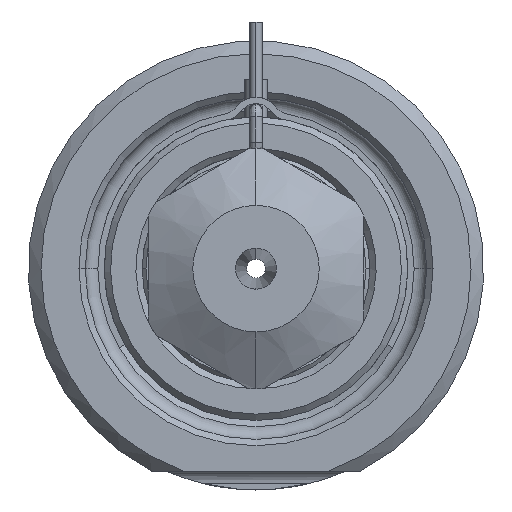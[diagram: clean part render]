
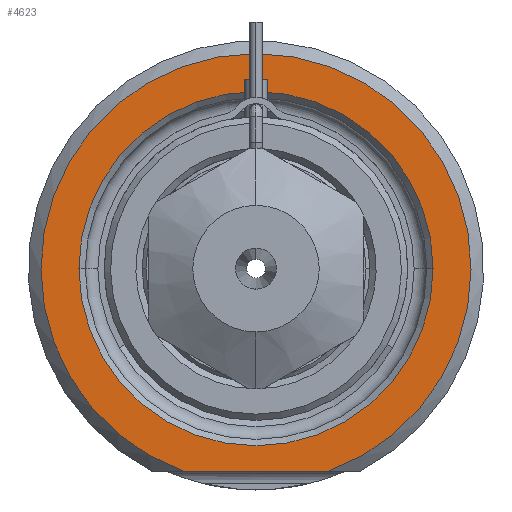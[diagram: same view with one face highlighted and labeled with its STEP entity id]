
A CAD part, front view. The second image highlights one B-rep face of the part: STEP entity #4623.
In plain terms, the highlighted planar face has unit normal (0, -1, 0).
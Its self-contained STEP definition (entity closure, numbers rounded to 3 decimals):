
#1349=DIRECTION('',(1.,0.,0.));
#1350=VECTOR('',#1349,11.489);
#1351=CARTESIAN_POINT('',(-5.745,0.,-16.));
#1352=LINE('',#1351,#1350);
#1353=CARTESIAN_POINT('',(0.,0.,0.));
#1354=DIRECTION('',(0.,1.,0.));
#1355=DIRECTION('',(-1.,0.,0.));
#1356=AXIS2_PLACEMENT_3D('',#1353,#1354,#1355);
#1358=CARTESIAN_POINT('',(0.,0.,0.));
#1359=DIRECTION('',(0.,1.,0.));
#1360=DIRECTION('',(1.,0.,0.));
#1361=AXIS2_PLACEMENT_3D('',#1358,#1359,#1360);
#1465=CARTESIAN_POINT('',(0.,0.,0.));
#1466=DIRECTION('',(0.,-1.,0.));
#1467=DIRECTION('',(0.338,0.,-0.941));
#1468=AXIS2_PLACEMENT_3D('',#1465,#1466,#1467);
#2519=CARTESIAN_POINT('',(-14.,0.,0.));
#2520=CARTESIAN_POINT('',(14.,0.,0.));
#2521=VERTEX_POINT('',#2519);
#2522=VERTEX_POINT('',#2520);
#2559=CARTESIAN_POINT('',(-5.745,0.,-16.));
#2560=CARTESIAN_POINT('',(5.745,0.,-16.));
#2561=VERTEX_POINT('',#2559);
#2562=VERTEX_POINT('',#2560);
#4607=CARTESIAN_POINT('',(0.,0.,0.));
#4608=DIRECTION('',(0.,-1.,0.));
#4609=DIRECTION('',(1.,0.,0.));
#4610=AXIS2_PLACEMENT_3D('',#4607,#4608,#4609);
#4611=PLANE('',#4610);
#4613=ORIENTED_EDGE('',*,*,#4612,.F.);
#4615=ORIENTED_EDGE('',*,*,#4614,.F.);
#4616=EDGE_LOOP('',(#4613,#4615));
#4617=FACE_OUTER_BOUND('',#4616,.F.);
#4619=ORIENTED_EDGE('',*,*,#4618,.F.);
#4620=ORIENTED_EDGE('',*,*,#4597,.F.);
#4621=EDGE_LOOP('',(#4619,#4620));
#4622=FACE_BOUND('',#4621,.F.);
#4623=ADVANCED_FACE('',(#4617,#4622),#4611,.T.);
#1357=CIRCLE('',#1356,14.);
#1362=CIRCLE('',#1361,14.);
#1469=CIRCLE('',#1468,17.);
#4597=EDGE_CURVE('',#2522,#2521,#1362,.T.);
#4612=EDGE_CURVE('',#2561,#2562,#1352,.T.);
#4614=EDGE_CURVE('',#2562,#2561,#1469,.T.);
#4618=EDGE_CURVE('',#2521,#2522,#1357,.T.);
